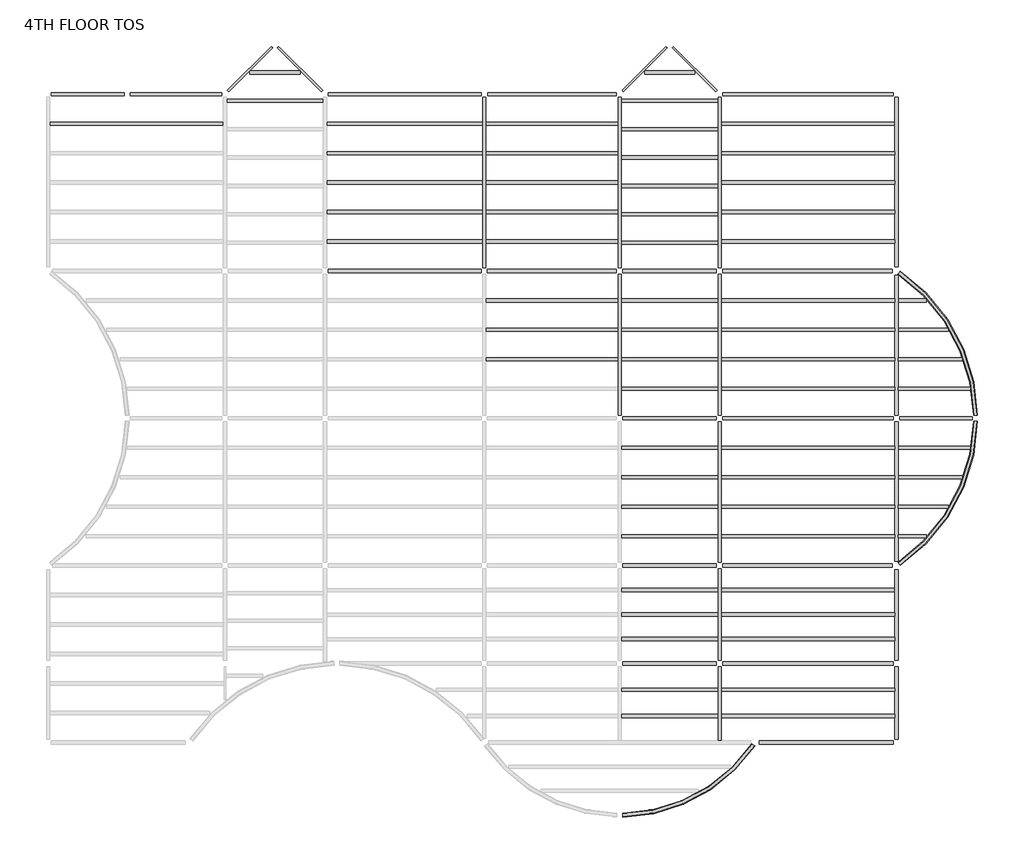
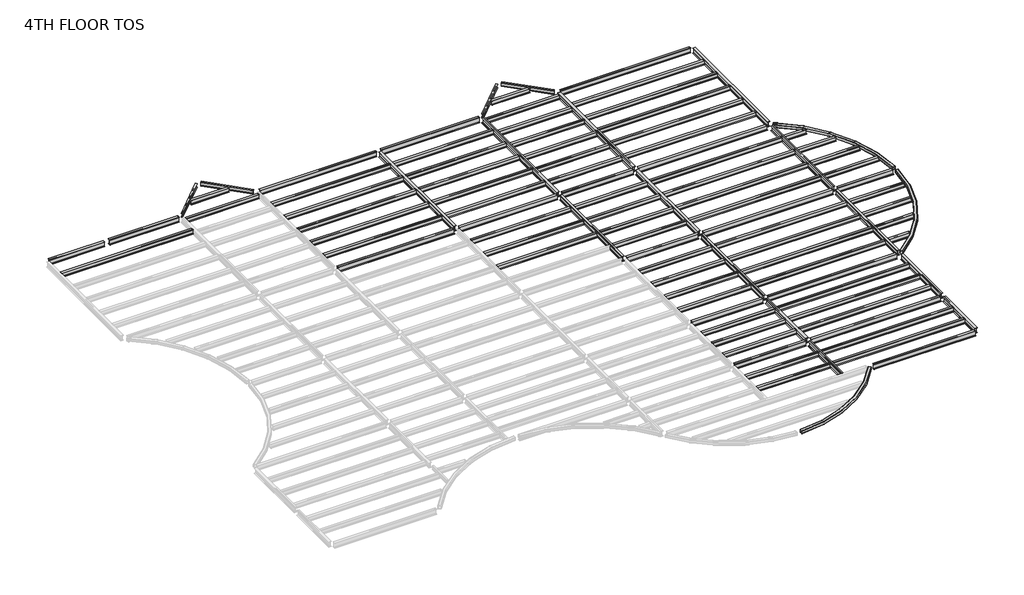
# One storey, part 2 of 2: 99 beams.
"""IFC4 building model written with IfcOpenShell, lengths in millimetres."""

from ifc_helpers import new_model, si_unit, origin, place, context, project, spatial, transform, mapped, element, save
from components import m_hss_square_hss203_2x203_2x9_5_28e91a4e, m_hss_square_hss203_2x203_2x9_5_f31329aa, m_hss_square_hss203_2x203_2x9_5_63507dff, ub_universal_beams_ub254x102x28_7812688d, ub_universal_beams_ub254x102x28_4a38c177, ub_universal_beams_ub305x165x40_c4d0385b, ub_universal_beams_ub305x165x40_19965e16, ub_universal_beams_ub305x165x40_d3abc31d, ub_universal_beams_ub305x165x40_0c73730f, ub_universal_beams_ub305x165x40_2a963f0c, ub_universal_beams_ub305x165x40_9ce7f2ee, ub_universal_beams_ub305x165x40_d184adfd, ub_universal_beams_ub305x165x40_bc7dc938, ub_universal_beams_ub305x165x40_b4233d25, ub_universal_beams_ub356x171x51_c708c058, ub_universal_beams_ub356x171x51_ef72dcdd, ub_universal_beams_ub356x171x51_10b3c54f, ub_universal_beams_ub356x171x51_4c9fd821, ub_universal_beams_ub356x171x51_d1a87c3c, ub_universal_beams_ub356x171x51_fa75724b, ub_universal_beams_ub356x171x51_68db896e, ub_universal_beams_ub356x171x51_c634c4a6, ub_universal_beams_ub356x171x51_995f1560, ub_universal_beams_ub356x171x51_dfc36663, ub_universal_beams_ub356x171x51_11d6b780, ub_universal_beams_ub356x171x51_76b2d20b, ub_universal_beams_ub356x171x51_145ecd4b, ub_universal_beams_ub356x171x51_c7dff8d2, ub_universal_beams_ub356x171x51_8a345439, ub_universal_beams_ub356x171x51_6da510e9, ub_universal_beams_ub356x171x51_e97f8d2e, ub_universal_beams_ub356x171x51_a38b99de, ub_universal_beams_ub356x171x51_d8f4cdde, ub_universal_beams_ub356x171x51_475301e6, ub_universal_beams_ub356x171x51_c03c70fb, ub_universal_beams_ub356x171x51_741bae58

model = new_model("IFC4")

# Units and contexts
model_context = context("Model", 3, world=origin())
ifc_project = project(units=[si_unit("LENGTHUNIT", "METRE", prefix="MILLI")], contexts=[model_context])

# Site, building, storey
site = spatial("IfcSite", under=ifc_project)
building = spatial("IfcBuilding", under=site)
storey = spatial("IfcBuildingStorey", under=building, Name="4TH FLOOR TOS", Elevation=18135.6)

# Beams
placement = place(None, origin())
m_hss_square_hss203_2x203_2x9_5_shape = m_hss_square_hss203_2x203_2x9_5_28e91a4e(model_context)
element("IfcBeam", 1, ObjectType="M_HSS Square : HSS203.2X203.2X9.5", at=placement, inside=storey, context=model_context, shape_type="MappedRepresentation", body=[
    mapped(m_hss_square_hss203_2x203_2x9_5_shape, transform((44027.575, 24539.575, 18034.1), x_axis=(0.8332810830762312, -0.5528495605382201, 0.0), y_axis=(0.5528495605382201, 0.8332810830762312, 0.0), z_axis=(0.0, 0.0, 1.0))),
])
m_hss_square_hss203_2x203_2x9_5_2_shape = m_hss_square_hss203_2x203_2x9_5_f31329aa(model_context)
element("IfcBeam", 2, ObjectType="M_HSS Square : HSS203.2X203.2X9.5", at=placement, inside=storey, context=model_context, shape_type="MappedRepresentation", body=[
    mapped(m_hss_square_hss203_2x203_2x9_5_2_shape, transform((44027.575, 9299.575, 18034.1), x_axis=(0.8332810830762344, 0.5528495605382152, 0.0), y_axis=(-0.5528495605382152, 0.8332810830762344, 0.0), z_axis=(0.0, 0.0, 1.0))),
])
m_hss_square_hss203_2x203_2x9_5_3_shape = m_hss_square_hss203_2x203_2x9_5_63507dff(model_context)
element("IfcBeam", 3, ObjectType="M_HSS Square : HSS203.2X203.2X9.5", at=placement, inside=storey, context=model_context, shape_type="MappedRepresentation", body=[
    mapped(m_hss_square_hss203_2x203_2x9_5_3_shape, transform((36716.575, 155.575, 18034.1), x_axis=(-0.5530174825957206, -0.8331696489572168, 0.0), y_axis=(0.8331696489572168, -0.5530174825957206, 0.0), z_axis=(0.0, 0.0, 1.0))),
])
ub_universal_beams_ub254x102x28_shape = ub_universal_beams_ub254x102x28_7812688d(model_context)
element("IfcBeam", 4, ObjectType="UB-Universal Beams : UB254x102x28", at=placement, inside=storey, context=model_context, shape_type="MappedRepresentation", body=[
    mapped(ub_universal_beams_ub254x102x28_shape, transform((10592.575, 34976.575, 18005.4), x_axis=(0.7071067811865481, 0.7071067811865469, 0.0), y_axis=(-0.7071067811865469, 0.7071067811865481, 0.0), z_axis=(0.0, 0.0, 1.0))),
])
element("IfcBeam", 5, ObjectType="UB-Universal Beams : UB254x102x28", at=placement, inside=storey, context=model_context, shape_type="MappedRepresentation", body=[
    mapped(ub_universal_beams_ub254x102x28_shape, transform((31004.575, 34976.575, 18005.4), x_axis=(0.7071067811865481, 0.7071067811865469, 0.0), y_axis=(-0.7071067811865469, 0.7071067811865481, 0.0), z_axis=(0.0, 0.0, 1.0))),
])
ub_universal_beams_ub254x102x28_2_shape = ub_universal_beams_ub254x102x28_4a38c177(model_context)
element("IfcBeam", 6, ObjectType="UB-Universal Beams : UB254x102x28", at=placement, inside=storey, context=model_context, shape_type="MappedRepresentation", body=[
    mapped(ub_universal_beams_ub254x102x28_2_shape, transform((13178.575, 34976.575, 18005.4), x_axis=(0.707106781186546, -0.707106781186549, 0.0), y_axis=(0.707106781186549, 0.707106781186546, 0.0), z_axis=(0.0, 0.0, 1.0))),
])
element("IfcBeam", 7, ObjectType="UB-Universal Beams : UB254x102x28", at=placement, inside=storey, context=model_context, shape_type="MappedRepresentation", body=[
    mapped(ub_universal_beams_ub254x102x28_2_shape, transform((33590.575, 34976.575, 18005.4), x_axis=(0.7071067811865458, -0.7071067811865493, 0.0), y_axis=(0.7071067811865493, 0.7071067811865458, 0.0), z_axis=(0.0, 0.0, 1.0))),
])
ub_universal_beams_ub305x165x40_shape = ub_universal_beams_ub305x165x40_c4d0385b(model_context)
element("IfcBeam", 8, ObjectType="UB-Universal Beams : UB305x165x40", at=placement, inside=storey, context=model_context, shape_type="MappedRepresentation", body=[
    mapped(ub_universal_beams_ub305x165x40_shape, transform((4727.575, 32159.575, 17983.9), x_axis=(1.0, 0.0, 0.0), y_axis=(0.0, 1.0, 0.0), z_axis=(0.0, 0.0, 1.0))),
])
element("IfcBeam", 9, ObjectType="UB-Universal Beams : UB305x165x40", at=placement, inside=storey, context=model_context, shape_type="MappedRepresentation", body=[
    mapped(ub_universal_beams_ub305x165x40_shape, transform((39455.575, 32159.575, 17983.9), x_axis=(1.0, 0.0, 0.0), y_axis=(0.0, 1.0, 0.0), z_axis=(0.0, 0.0, 1.0))),
])
element("IfcBeam", 10, ObjectType="UB-Universal Beams : UB305x165x40", at=placement, inside=storey, context=model_context, shape_type="MappedRepresentation", body=[
    mapped(ub_universal_beams_ub305x165x40_shape, transform((39455.575, 30635.575, 17983.9), x_axis=(1.0, 0.0, 0.0), y_axis=(0.0, 1.0, 0.0), z_axis=(0.0, 0.0, 1.0))),
])
element("IfcBeam", 11, ObjectType="UB-Universal Beams : UB305x165x40", at=placement, inside=storey, context=model_context, shape_type="MappedRepresentation", body=[
    mapped(ub_universal_beams_ub305x165x40_shape, transform((39455.575, 29111.575, 17983.9), x_axis=(1.0, 0.0, 0.0), y_axis=(0.0, 1.0, 0.0), z_axis=(0.0, 0.0, 1.0))),
])
element("IfcBeam", 12, ObjectType="UB-Universal Beams : UB305x165x40", at=placement, inside=storey, context=model_context, shape_type="MappedRepresentation", body=[
    mapped(ub_universal_beams_ub305x165x40_shape, transform((39455.575, 27587.575, 17983.9), x_axis=(1.0, 0.0, 0.0), y_axis=(0.0, 1.0, 0.0), z_axis=(0.0, 0.0, 1.0))),
])
element("IfcBeam", 13, ObjectType="UB-Universal Beams : UB305x165x40", at=placement, inside=storey, context=model_context, shape_type="MappedRepresentation", body=[
    mapped(ub_universal_beams_ub305x165x40_shape, transform((39455.575, 26063.575, 17983.9), x_axis=(1.0, 0.0, 0.0), y_axis=(0.0, 1.0, 0.0), z_axis=(0.0, 0.0, 1.0))),
])
element("IfcBeam", 14, ObjectType="UB-Universal Beams : UB305x165x40", at=placement, inside=storey, context=model_context, shape_type="MappedRepresentation", body=[
    mapped(ub_universal_beams_ub305x165x40_shape, transform((39455.575, 23015.575, 17983.9), x_axis=(1.0, 0.0, 0.0), y_axis=(0.0, 1.0, 0.0), z_axis=(0.0, 0.0, 1.0))),
])
element("IfcBeam", 15, ObjectType="UB-Universal Beams : UB305x165x40", at=placement, inside=storey, context=model_context, shape_type="MappedRepresentation", body=[
    mapped(ub_universal_beams_ub305x165x40_shape, transform((39455.575, 21491.575, 17983.9), x_axis=(1.0, 0.0, 0.0), y_axis=(0.0, 1.0, 0.0), z_axis=(0.0, 0.0, 1.0))),
])
element("IfcBeam", 16, ObjectType="UB-Universal Beams : UB305x165x40", at=placement, inside=storey, context=model_context, shape_type="MappedRepresentation", body=[
    mapped(ub_universal_beams_ub305x165x40_shape, transform((39455.575, 19967.575, 17983.9), x_axis=(1.0, 0.0, 0.0), y_axis=(0.0, 1.0, 0.0), z_axis=(0.0, 0.0, 1.0))),
])
element("IfcBeam", 17, ObjectType="UB-Universal Beams : UB305x165x40", at=placement, inside=storey, context=model_context, shape_type="MappedRepresentation", body=[
    mapped(ub_universal_beams_ub305x165x40_shape, transform((39455.575, 18443.575, 17983.9), x_axis=(1.0, 0.0, 0.0), y_axis=(0.0, 1.0, 0.0), z_axis=(0.0, 0.0, 1.0))),
])
element("IfcBeam", 18, ObjectType="UB-Universal Beams : UB305x165x40", at=placement, inside=storey, context=model_context, shape_type="MappedRepresentation", body=[
    mapped(ub_universal_beams_ub305x165x40_shape, transform((39455.575, 15395.575, 17983.9), x_axis=(1.0, 0.0, 0.0), y_axis=(0.0, 1.0, 0.0), z_axis=(0.0, 0.0, 1.0))),
])
element("IfcBeam", 19, ObjectType="UB-Universal Beams : UB305x165x40", at=placement, inside=storey, context=model_context, shape_type="MappedRepresentation", body=[
    mapped(ub_universal_beams_ub305x165x40_shape, transform((39455.575, 13871.575, 17983.9), x_axis=(1.0, 0.0, 0.0), y_axis=(0.0, 1.0, 0.0), z_axis=(0.0, 0.0, 1.0))),
])
element("IfcBeam", 20, ObjectType="UB-Universal Beams : UB305x165x40", at=placement, inside=storey, context=model_context, shape_type="MappedRepresentation", body=[
    mapped(ub_universal_beams_ub305x165x40_shape, transform((39455.575, 12347.575, 17983.9), x_axis=(1.0, 0.0, 0.0), y_axis=(0.0, 1.0, 0.0), z_axis=(0.0, 0.0, 1.0))),
])
element("IfcBeam", 21, ObjectType="UB-Universal Beams : UB305x165x40", at=placement, inside=storey, context=model_context, shape_type="MappedRepresentation", body=[
    mapped(ub_universal_beams_ub305x165x40_shape, transform((39455.575, 10823.575, 17983.9), x_axis=(1.0, 0.0, 0.0), y_axis=(0.0, 1.0, 0.0), z_axis=(0.0, 0.0, 1.0))),
])
element("IfcBeam", 22, ObjectType="UB-Universal Beams : UB305x165x40", at=placement, inside=storey, context=model_context, shape_type="MappedRepresentation", body=[
    mapped(ub_universal_beams_ub305x165x40_shape, transform((39455.575, 5508.325, 17983.9), x_axis=(-1.0, 0.0, 0.0), y_axis=(0.0, -1.0, 0.0), z_axis=(0.0, 0.0, 1.0))),
])
element("IfcBeam", 23, ObjectType="UB-Universal Beams : UB305x165x40", at=placement, inside=storey, context=model_context, shape_type="MappedRepresentation", body=[
    mapped(ub_universal_beams_ub305x165x40_shape, transform((39455.575, 6772.075, 17983.9), x_axis=(-1.0, 0.0, 0.0), y_axis=(0.0, -1.0, 0.0), z_axis=(0.0, 0.0, 1.0))),
])
element("IfcBeam", 24, ObjectType="UB-Universal Beams : UB305x165x40", at=placement, inside=storey, context=model_context, shape_type="MappedRepresentation", body=[
    mapped(ub_universal_beams_ub305x165x40_shape, transform((39455.575, 8035.825, 17983.9), x_axis=(-1.0, 0.0, 0.0), y_axis=(0.0, -1.0, 0.0), z_axis=(0.0, 0.0, 1.0))),
])
element("IfcBeam", 25, ObjectType="UB-Universal Beams : UB305x165x40", at=placement, inside=storey, context=model_context, shape_type="MappedRepresentation", body=[
    mapped(ub_universal_beams_ub305x165x40_shape, transform((39455.575, 1518.575, 17983.9), x_axis=(-1.0, 0.0, 0.0), y_axis=(0.0, -1.0, 0.0), z_axis=(0.0, 0.0, 1.0))),
])
element("IfcBeam", 26, ObjectType="UB-Universal Beams : UB305x165x40", at=placement, inside=storey, context=model_context, shape_type="MappedRepresentation", body=[
    mapped(ub_universal_beams_ub305x165x40_shape, transform((39455.575, 2881.575, 17983.9), x_axis=(-1.0, 0.0, 0.0), y_axis=(0.0, -1.0, 0.0), z_axis=(0.0, 0.0, 1.0))),
])
ub_universal_beams_ub305x165x40_2_shape = ub_universal_beams_ub305x165x40_19965e16(model_context)
element("IfcBeam", 27, ObjectType="UB-Universal Beams : UB305x165x40", at=placement, inside=storey, context=model_context, shape_type="MappedRepresentation", body=[
    mapped(ub_universal_beams_ub305x165x40_2_shape, transform((11885.575, 34803.325, 17983.9), x_axis=(1.0, 0.0, 0.0), y_axis=(0.0, 1.0, 0.0), z_axis=(0.0, 0.0, 1.0))),
])
element("IfcBeam", 28, ObjectType="UB-Universal Beams : UB305x165x40", at=placement, inside=storey, context=model_context, shape_type="MappedRepresentation", body=[
    mapped(ub_universal_beams_ub305x165x40_2_shape, transform((32297.575, 34803.325, 17983.9), x_axis=(1.0, 0.0, 0.0), y_axis=(0.0, 1.0, 0.0), z_axis=(0.0, 0.0, 1.0))),
])
ub_universal_beams_ub305x165x40_3_shape = ub_universal_beams_ub305x165x40_d3abc31d(model_context)
element("IfcBeam", 29, ObjectType="UB-Universal Beams : UB305x165x40", at=placement, inside=storey, context=model_context, shape_type="MappedRepresentation", body=[
    mapped(ub_universal_beams_ub305x165x40_3_shape, transform((11885.575, 33337.075, 17983.9), x_axis=(1.0, 0.0, 0.0), y_axis=(0.0, 1.0, 0.0), z_axis=(0.0, 0.0, 1.0))),
])
element("IfcBeam", 30, ObjectType="UB-Universal Beams : UB305x165x40", at=placement, inside=storey, context=model_context, shape_type="MappedRepresentation", body=[
    mapped(ub_universal_beams_ub305x165x40_3_shape, transform((32297.575, 33337.075, 17983.9), x_axis=(1.0, 0.0, 0.0), y_axis=(0.0, 1.0, 0.0), z_axis=(0.0, 0.0, 1.0))),
])
element("IfcBeam", 31, ObjectType="UB-Universal Beams : UB305x165x40", at=placement, inside=storey, context=model_context, shape_type="MappedRepresentation", body=[
    mapped(ub_universal_beams_ub305x165x40_3_shape, transform((32297.575, 31870.825, 17983.9), x_axis=(1.0, 0.0, 0.0), y_axis=(0.0, 1.0, 0.0), z_axis=(0.0, 0.0, 1.0))),
])
element("IfcBeam", 32, ObjectType="UB-Universal Beams : UB305x165x40", at=placement, inside=storey, context=model_context, shape_type="MappedRepresentation", body=[
    mapped(ub_universal_beams_ub305x165x40_3_shape, transform((32297.575, 30404.575, 17983.9), x_axis=(1.0, 0.0, 0.0), y_axis=(0.0, 1.0, 0.0), z_axis=(0.0, 0.0, 1.0))),
])
element("IfcBeam", 33, ObjectType="UB-Universal Beams : UB305x165x40", at=placement, inside=storey, context=model_context, shape_type="MappedRepresentation", body=[
    mapped(ub_universal_beams_ub305x165x40_3_shape, transform((32297.575, 28938.325, 17983.9), x_axis=(1.0, 0.0, 0.0), y_axis=(0.0, 1.0, 0.0), z_axis=(0.0, 0.0, 1.0))),
])
element("IfcBeam", 34, ObjectType="UB-Universal Beams : UB305x165x40", at=placement, inside=storey, context=model_context, shape_type="MappedRepresentation", body=[
    mapped(ub_universal_beams_ub305x165x40_3_shape, transform((32297.575, 27472.075, 17983.9), x_axis=(1.0, 0.0, 0.0), y_axis=(0.0, 1.0, 0.0), z_axis=(0.0, 0.0, 1.0))),
])
element("IfcBeam", 35, ObjectType="UB-Universal Beams : UB305x165x40", at=placement, inside=storey, context=model_context, shape_type="MappedRepresentation", body=[
    mapped(ub_universal_beams_ub305x165x40_3_shape, transform((32297.575, 26005.825, 17983.9), x_axis=(1.0, 0.0, 0.0), y_axis=(0.0, 1.0, 0.0), z_axis=(0.0, 0.0, 1.0))),
])
element("IfcBeam", 36, ObjectType="UB-Universal Beams : UB305x165x40", at=placement, inside=storey, context=model_context, shape_type="MappedRepresentation", body=[
    mapped(ub_universal_beams_ub305x165x40_3_shape, transform((32297.575, 1518.575, 17983.9), x_axis=(-1.0, 0.0, 0.0), y_axis=(0.0, -1.0, 0.0), z_axis=(0.0, 0.0, 1.0))),
])
element("IfcBeam", 37, ObjectType="UB-Universal Beams : UB305x165x40", at=placement, inside=storey, context=model_context, shape_type="MappedRepresentation", body=[
    mapped(ub_universal_beams_ub305x165x40_3_shape, transform((32297.575, 2881.575, 17983.9), x_axis=(-1.0, 0.0, 0.0), y_axis=(0.0, -1.0, 0.0), z_axis=(0.0, 0.0, 1.0))),
])
element("IfcBeam", 38, ObjectType="UB-Universal Beams : UB305x165x40", at=placement, inside=storey, context=model_context, shape_type="MappedRepresentation", body=[
    mapped(ub_universal_beams_ub305x165x40_3_shape, transform((32297.575, 5508.325, 17983.9), x_axis=(-1.0, 0.0, 0.0), y_axis=(0.0, -1.0, 0.0), z_axis=(0.0, 0.0, 1.0))),
])
element("IfcBeam", 39, ObjectType="UB-Universal Beams : UB305x165x40", at=placement, inside=storey, context=model_context, shape_type="MappedRepresentation", body=[
    mapped(ub_universal_beams_ub305x165x40_3_shape, transform((32297.575, 6772.075, 17983.9), x_axis=(-1.0, 0.0, 0.0), y_axis=(0.0, -1.0, 0.0), z_axis=(0.0, 0.0, 1.0))),
])
element("IfcBeam", 40, ObjectType="UB-Universal Beams : UB305x165x40", at=placement, inside=storey, context=model_context, shape_type="MappedRepresentation", body=[
    mapped(ub_universal_beams_ub305x165x40_3_shape, transform((32297.575, 8035.825, 17983.9), x_axis=(-1.0, 0.0, 0.0), y_axis=(0.0, -1.0, 0.0), z_axis=(0.0, 0.0, 1.0))),
])
element("IfcBeam", 41, ObjectType="UB-Universal Beams : UB305x165x40", at=placement, inside=storey, context=model_context, shape_type="MappedRepresentation", body=[
    mapped(ub_universal_beams_ub305x165x40_3_shape, transform((32297.575, 15395.575, 17983.9), x_axis=(1.0, 0.0, 0.0), y_axis=(0.0, 1.0, 0.0), z_axis=(0.0, 0.0, 1.0))),
])
element("IfcBeam", 42, ObjectType="UB-Universal Beams : UB305x165x40", at=placement, inside=storey, context=model_context, shape_type="MappedRepresentation", body=[
    mapped(ub_universal_beams_ub305x165x40_3_shape, transform((32297.575, 13871.575, 17983.9), x_axis=(1.0, 0.0, 0.0), y_axis=(0.0, 1.0, 0.0), z_axis=(0.0, 0.0, 1.0))),
])
element("IfcBeam", 43, ObjectType="UB-Universal Beams : UB305x165x40", at=placement, inside=storey, context=model_context, shape_type="MappedRepresentation", body=[
    mapped(ub_universal_beams_ub305x165x40_3_shape, transform((32297.575, 12347.575, 17983.9), x_axis=(1.0, 0.0, 0.0), y_axis=(0.0, 1.0, 0.0), z_axis=(0.0, 0.0, 1.0))),
])
element("IfcBeam", 44, ObjectType="UB-Universal Beams : UB305x165x40", at=placement, inside=storey, context=model_context, shape_type="MappedRepresentation", body=[
    mapped(ub_universal_beams_ub305x165x40_3_shape, transform((32297.575, 10823.575, 17983.9), x_axis=(1.0, 0.0, 0.0), y_axis=(0.0, 1.0, 0.0), z_axis=(0.0, 0.0, 1.0))),
])
element("IfcBeam", 45, ObjectType="UB-Universal Beams : UB305x165x40", at=placement, inside=storey, context=model_context, shape_type="MappedRepresentation", body=[
    mapped(ub_universal_beams_ub305x165x40_3_shape, transform((32297.575, 23015.575, 17983.9), x_axis=(1.0, 0.0, 0.0), y_axis=(0.0, 1.0, 0.0), z_axis=(0.0, 0.0, 1.0))),
])
element("IfcBeam", 46, ObjectType="UB-Universal Beams : UB305x165x40", at=placement, inside=storey, context=model_context, shape_type="MappedRepresentation", body=[
    mapped(ub_universal_beams_ub305x165x40_3_shape, transform((32297.575, 21491.575, 17983.9), x_axis=(1.0, 0.0, 0.0), y_axis=(0.0, 1.0, 0.0), z_axis=(0.0, 0.0, 1.0))),
])
element("IfcBeam", 47, ObjectType="UB-Universal Beams : UB305x165x40", at=placement, inside=storey, context=model_context, shape_type="MappedRepresentation", body=[
    mapped(ub_universal_beams_ub305x165x40_3_shape, transform((32297.575, 19967.575, 17983.9), x_axis=(1.0, 0.0, 0.0), y_axis=(0.0, 1.0, 0.0), z_axis=(0.0, 0.0, 1.0))),
])
element("IfcBeam", 48, ObjectType="UB-Universal Beams : UB305x165x40", at=placement, inside=storey, context=model_context, shape_type="MappedRepresentation", body=[
    mapped(ub_universal_beams_ub305x165x40_3_shape, transform((32297.575, 18443.575, 17983.9), x_axis=(1.0, 0.0, 0.0), y_axis=(0.0, 1.0, 0.0), z_axis=(0.0, 0.0, 1.0))),
])
ub_universal_beams_ub305x165x40_4_shape = ub_universal_beams_ub305x165x40_0c73730f(model_context)
element("IfcBeam", 49, ObjectType="UB-Universal Beams : UB305x165x40", at=placement, inside=storey, context=model_context, shape_type="MappedRepresentation", body=[
    mapped(ub_universal_beams_ub305x165x40_4_shape, transform((18591.075, 32159.575, 17983.9), x_axis=(1.0, 0.0, 0.0), y_axis=(0.0, 1.0, 0.0), z_axis=(0.0, 0.0, 1.0))),
])
element("IfcBeam", 50, ObjectType="UB-Universal Beams : UB305x165x40", at=placement, inside=storey, context=model_context, shape_type="MappedRepresentation", body=[
    mapped(ub_universal_beams_ub305x165x40_4_shape, transform((18591.075, 30635.575, 17983.9), x_axis=(1.0, 0.0, 0.0), y_axis=(0.0, 1.0, 0.0), z_axis=(0.0, 0.0, 1.0))),
])
element("IfcBeam", 51, ObjectType="UB-Universal Beams : UB305x165x40", at=placement, inside=storey, context=model_context, shape_type="MappedRepresentation", body=[
    mapped(ub_universal_beams_ub305x165x40_4_shape, transform((18591.075, 29111.575, 17983.9), x_axis=(1.0, 0.0, 0.0), y_axis=(0.0, 1.0, 0.0), z_axis=(0.0, 0.0, 1.0))),
])
element("IfcBeam", 52, ObjectType="UB-Universal Beams : UB305x165x40", at=placement, inside=storey, context=model_context, shape_type="MappedRepresentation", body=[
    mapped(ub_universal_beams_ub305x165x40_4_shape, transform((18591.075, 27587.575, 17983.9), x_axis=(1.0, 0.0, 0.0), y_axis=(0.0, 1.0, 0.0), z_axis=(0.0, 0.0, 1.0))),
])
element("IfcBeam", 53, ObjectType="UB-Universal Beams : UB305x165x40", at=placement, inside=storey, context=model_context, shape_type="MappedRepresentation", body=[
    mapped(ub_universal_beams_ub305x165x40_4_shape, transform((18591.075, 26063.575, 17983.9), x_axis=(1.0, 0.0, 0.0), y_axis=(0.0, 1.0, 0.0), z_axis=(0.0, 0.0, 1.0))),
])
ub_universal_beams_ub305x165x40_5_shape = ub_universal_beams_ub305x165x40_2a963f0c(model_context)
element("IfcBeam", 54, ObjectType="UB-Universal Beams : UB305x165x40", at=placement, inside=storey, context=model_context, shape_type="MappedRepresentation", body=[
    mapped(ub_universal_beams_ub305x165x40_5_shape, transform((26211.075, 32159.575, 17983.9), x_axis=(1.0, 0.0, 0.0), y_axis=(0.0, 1.0, 0.0), z_axis=(0.0, 0.0, 1.0))),
])
element("IfcBeam", 55, ObjectType="UB-Universal Beams : UB305x165x40", at=placement, inside=storey, context=model_context, shape_type="MappedRepresentation", body=[
    mapped(ub_universal_beams_ub305x165x40_5_shape, transform((26211.075, 30635.575, 17983.9), x_axis=(1.0, 0.0, 0.0), y_axis=(0.0, 1.0, 0.0), z_axis=(0.0, 0.0, 1.0))),
])
element("IfcBeam", 56, ObjectType="UB-Universal Beams : UB305x165x40", at=placement, inside=storey, context=model_context, shape_type="MappedRepresentation", body=[
    mapped(ub_universal_beams_ub305x165x40_5_shape, transform((26211.075, 29111.575, 17983.9), x_axis=(1.0, 0.0, 0.0), y_axis=(0.0, 1.0, 0.0), z_axis=(0.0, 0.0, 1.0))),
])
element("IfcBeam", 57, ObjectType="UB-Universal Beams : UB305x165x40", at=placement, inside=storey, context=model_context, shape_type="MappedRepresentation", body=[
    mapped(ub_universal_beams_ub305x165x40_5_shape, transform((26211.075, 27587.575, 17983.9), x_axis=(1.0, 0.0, 0.0), y_axis=(0.0, 1.0, 0.0), z_axis=(0.0, 0.0, 1.0))),
])
element("IfcBeam", 58, ObjectType="UB-Universal Beams : UB305x165x40", at=placement, inside=storey, context=model_context, shape_type="MappedRepresentation", body=[
    mapped(ub_universal_beams_ub305x165x40_5_shape, transform((26211.075, 26063.575, 17983.9), x_axis=(1.0, 0.0, 0.0), y_axis=(0.0, 1.0, 0.0), z_axis=(0.0, 0.0, 1.0))),
])
element("IfcBeam", 59, ObjectType="UB-Universal Beams : UB305x165x40", at=placement, inside=storey, context=model_context, shape_type="MappedRepresentation", body=[
    mapped(ub_universal_beams_ub305x165x40_5_shape, transform((26211.075, 23015.575, 17983.9), x_axis=(1.0, 0.0, 0.0), y_axis=(0.0, 1.0, 0.0), z_axis=(0.0, 0.0, 1.0))),
])
element("IfcBeam", 60, ObjectType="UB-Universal Beams : UB305x165x40", at=placement, inside=storey, context=model_context, shape_type="MappedRepresentation", body=[
    mapped(ub_universal_beams_ub305x165x40_5_shape, transform((26211.075, 21491.575, 17983.9), x_axis=(1.0, 0.0, 0.0), y_axis=(0.0, 1.0, 0.0), z_axis=(0.0, 0.0, 1.0))),
])
element("IfcBeam", 61, ObjectType="UB-Universal Beams : UB305x165x40", at=placement, inside=storey, context=model_context, shape_type="MappedRepresentation", body=[
    mapped(ub_universal_beams_ub305x165x40_5_shape, transform((26211.075, 19967.575, 17983.9), x_axis=(1.0, 0.0, 0.0), y_axis=(0.0, 1.0, 0.0), z_axis=(0.0, 0.0, 1.0))),
])
ub_universal_beams_ub305x165x40_6_shape = ub_universal_beams_ub305x165x40_9ce7f2ee(model_context)
element("IfcBeam", 62, ObjectType="UB-Universal Beams : UB305x165x40", at=placement, inside=storey, context=model_context, shape_type="MappedRepresentation", body=[
    mapped(ub_universal_beams_ub305x165x40_6_shape, transform((44907.9405309, 23015.575, 17983.9), x_axis=(1.0, 0.0, 0.0), y_axis=(0.0, 1.0, 0.0), z_axis=(0.0, 0.0, 1.0))),
])
element("IfcBeam", 63, ObjectType="UB-Universal Beams : UB305x165x40", at=placement, inside=storey, context=model_context, shape_type="MappedRepresentation", body=[
    mapped(ub_universal_beams_ub305x165x40_6_shape, transform((44907.9405309, 10823.575, 17983.9), x_axis=(1.0, 0.0, 0.0), y_axis=(0.0, 1.0, 0.0), z_axis=(0.0, 0.0, 1.0))),
])
ub_universal_beams_ub305x165x40_7_shape = ub_universal_beams_ub305x165x40_d184adfd(model_context)
element("IfcBeam", 64, ObjectType="UB-Universal Beams : UB305x165x40", at=placement, inside=storey, context=model_context, shape_type="MappedRepresentation", body=[
    mapped(ub_universal_beams_ub305x165x40_7_shape, transform((45459.5874928, 21491.575, 17983.9), x_axis=(1.0, 0.0, 0.0), y_axis=(0.0, 1.0, 0.0), z_axis=(0.0, 0.0, 1.0))),
])
element("IfcBeam", 65, ObjectType="UB-Universal Beams : UB305x165x40", at=placement, inside=storey, context=model_context, shape_type="MappedRepresentation", body=[
    mapped(ub_universal_beams_ub305x165x40_7_shape, transform((45459.5874928, 12347.575, 17983.9), x_axis=(1.0, 0.0, 0.0), y_axis=(0.0, 1.0, 0.0), z_axis=(0.0, 0.0, 1.0))),
])
ub_universal_beams_ub305x165x40_8_shape = ub_universal_beams_ub305x165x40_bc7dc938(model_context)
element("IfcBeam", 66, ObjectType="UB-Universal Beams : UB305x165x40", at=placement, inside=storey, context=model_context, shape_type="MappedRepresentation", body=[
    mapped(ub_universal_beams_ub305x165x40_8_shape, transform((45810.6153272, 19967.575, 17983.9), x_axis=(1.0, 0.0, 0.0), y_axis=(0.0, 1.0, 0.0), z_axis=(0.0, 0.0, 1.0))),
])
element("IfcBeam", 67, ObjectType="UB-Universal Beams : UB305x165x40", at=placement, inside=storey, context=model_context, shape_type="MappedRepresentation", body=[
    mapped(ub_universal_beams_ub305x165x40_8_shape, transform((45810.6153272, 13871.575, 17983.9), x_axis=(1.0, 0.0, 0.0), y_axis=(0.0, 1.0, 0.0), z_axis=(0.0, 0.0, 1.0))),
])
ub_universal_beams_ub305x165x40_9_shape = ub_universal_beams_ub305x165x40_b4233d25(model_context)
element("IfcBeam", 68, ObjectType="UB-Universal Beams : UB305x165x40", at=placement, inside=storey, context=model_context, shape_type="MappedRepresentation", body=[
    mapped(ub_universal_beams_ub305x165x40_9_shape, transform((46008.1318611, 18443.575, 17983.9), x_axis=(1.0, 0.0, 0.0), y_axis=(0.0, 1.0, 0.0), z_axis=(0.0, 0.0, 1.0))),
])
element("IfcBeam", 69, ObjectType="UB-Universal Beams : UB305x165x40", at=placement, inside=storey, context=model_context, shape_type="MappedRepresentation", body=[
    mapped(ub_universal_beams_ub305x165x40_9_shape, transform((46008.1318611, 15395.575, 17983.9), x_axis=(1.0, 0.0, 0.0), y_axis=(0.0, 1.0, 0.0), z_axis=(0.0, 0.0, 1.0))),
])
ub_universal_beams_ub356x171x51_shape = ub_universal_beams_ub356x171x51_c708c058(model_context)
element("IfcBeam", 70, ObjectType="UB-Universal Beams : UB356x171x51", at=placement, inside=storey, context=model_context, shape_type="MappedRepresentation", body=[
    mapped(ub_universal_beams_ub356x171x51_shape, transform((2200.075, 33683.575, 17958.1), x_axis=(1.0, 0.0, 0.0), y_axis=(0.0, 1.0, 0.0), z_axis=(0.0, 0.0, 1.0))),
])
ub_universal_beams_ub356x171x51_2_shape = ub_universal_beams_ub356x171x51_ef72dcdd(model_context)
element("IfcBeam", 71, ObjectType="UB-Universal Beams : UB356x171x51", at=placement, inside=storey, context=model_context, shape_type="MappedRepresentation", body=[
    mapped(ub_universal_beams_ub356x171x51_2_shape, transform((6772.075, 33683.575, 17958.1), x_axis=(1.0, 0.0, 0.0), y_axis=(0.0, 1.0, 0.0), z_axis=(0.0, 0.0, 1.0))),
])
element("IfcBeam", 72, ObjectType="UB-Universal Beams : UB356x171x51", at=placement, inside=storey, context=model_context, shape_type="MappedRepresentation", body=[
    mapped(ub_universal_beams_ub356x171x51_2_shape, transform((34883.575, 6772.075, 17958.1), x_axis=(0.0, -1.0, 0.0), y_axis=(1.0, 0.0, 0.0), z_axis=(0.0, 0.0, 1.0))),
])
ub_universal_beams_ub356x171x51_3_shape = ub_universal_beams_ub356x171x51_10b3c54f(model_context)
element("IfcBeam", 73, ObjectType="UB-Universal Beams : UB356x171x51", at=placement, inside=storey, context=model_context, shape_type="MappedRepresentation", body=[
    mapped(ub_universal_beams_ub356x171x51_3_shape, transform((18591.075, 33683.575, 17958.1), x_axis=(1.0, 0.0, 0.0), y_axis=(0.0, 1.0, 0.0), z_axis=(0.0, 0.0, 1.0))),
])
ub_universal_beams_ub356x171x51_4_shape = ub_universal_beams_ub356x171x51_4c9fd821(model_context)
element("IfcBeam", 74, ObjectType="UB-Universal Beams : UB356x171x51", at=placement, inside=storey, context=model_context, shape_type="MappedRepresentation", body=[
    mapped(ub_universal_beams_ub356x171x51_4_shape, transform((26211.075, 33683.575, 17958.1), x_axis=(1.0, 0.0, 0.0), y_axis=(0.0, 1.0, 0.0), z_axis=(0.0, 0.0, 1.0))),
])
ub_universal_beams_ub356x171x51_5_shape = ub_universal_beams_ub356x171x51_d1a87c3c(model_context)
element("IfcBeam", 75, ObjectType="UB-Universal Beams : UB356x171x51", at=placement, inside=storey, context=model_context, shape_type="MappedRepresentation", body=[
    mapped(ub_universal_beams_ub356x171x51_5_shape, transform((39455.575, 33683.575, 17958.1), x_axis=(1.0, 0.0, 0.0), y_axis=(0.0, 1.0, 0.0), z_axis=(0.0, 0.0, 1.0))),
])
ub_universal_beams_ub356x171x51_6_shape = ub_universal_beams_ub356x171x51_fa75724b(model_context)
element("IfcBeam", 76, ObjectType="UB-Universal Beams : UB356x171x51", at=placement, inside=storey, context=model_context, shape_type="MappedRepresentation", body=[
    mapped(ub_universal_beams_ub356x171x51_6_shape, transform((44027.575, 29111.575, 17958.1), x_axis=(0.0, -1.0, 0.0), y_axis=(1.0, 0.0, 0.0), z_axis=(0.0, 0.0, 1.0))),
])
ub_universal_beams_ub356x171x51_7_shape = ub_universal_beams_ub356x171x51_68db896e(model_context)
element("IfcBeam", 77, ObjectType="UB-Universal Beams : UB356x171x51", at=placement, inside=storey, context=model_context, shape_type="MappedRepresentation", body=[
    mapped(ub_universal_beams_ub356x171x51_7_shape, transform((44027.575, 6772.075, 17958.1), x_axis=(0.0, -1.0, 0.0), y_axis=(1.0, 0.0, 0.0), z_axis=(0.0, 0.0, 1.0))),
])
ub_universal_beams_ub356x171x51_8_shape = ub_universal_beams_ub356x171x51_c634c4a6(model_context)
element("IfcBeam", 78, ObjectType="UB-Universal Beams : UB356x171x51", at=placement, inside=storey, context=model_context, shape_type="MappedRepresentation", body=[
    mapped(ub_universal_beams_ub356x171x51_8_shape, transform((44027.575, 2200.075, 17958.1), x_axis=(0.0, -1.0, 0.0), y_axis=(1.0, 0.0, 0.0), z_axis=(0.0, 0.0, 1.0))),
])
ub_universal_beams_ub356x171x51_9_shape = ub_universal_beams_ub356x171x51_995f1560(model_context)
element("IfcBeam", 79, ObjectType="UB-Universal Beams : UB356x171x51", at=placement, inside=storey, context=model_context, shape_type="MappedRepresentation", body=[
    mapped(ub_universal_beams_ub356x171x51_9_shape, transform((40372.075, 155.575, 17958.1), x_axis=(-1.0, 0.0, 0.0), y_axis=(0.0, -1.0, 0.0), z_axis=(0.0, 0.0, 1.0))),
])
ub_universal_beams_ub356x171x51_10_shape = ub_universal_beams_ub356x171x51_dfc36663(model_context)
element("IfcBeam", 80, ObjectType="UB-Universal Beams : UB356x171x51", at=placement, inside=storey, context=model_context, shape_type="MappedRepresentation", body=[
    mapped(ub_universal_beams_ub356x171x51_10_shape, transform((46072.075, 16919.575, 17958.1), x_axis=(1.0, 0.0, 0.0), y_axis=(0.0, 1.0, 0.0), z_axis=(0.0, 0.0, 1.0))),
])
ub_universal_beams_ub356x171x51_11_shape = ub_universal_beams_ub356x171x51_11d6b780(model_context)
element("IfcBeam", 81, ObjectType="UB-Universal Beams : UB356x171x51", at=placement, inside=storey, context=model_context, shape_type="MappedRepresentation", body=[
    mapped(ub_universal_beams_ub356x171x51_11_shape, transform((32297.575, 24539.575, 17958.1), x_axis=(1.0, 0.0, 0.0), y_axis=(0.0, 1.0, 0.0), z_axis=(0.0, 0.0, 1.0))),
])
element("IfcBeam", 82, ObjectType="UB-Universal Beams : UB356x171x51", at=placement, inside=storey, context=model_context, shape_type="MappedRepresentation", body=[
    mapped(ub_universal_beams_ub356x171x51_11_shape, transform((32297.575, 9299.575, 17958.1), x_axis=(-1.0, 0.0, 0.0), y_axis=(0.0, -1.0, 0.0), z_axis=(0.0, 0.0, 1.0))),
])
element("IfcBeam", 83, ObjectType="UB-Universal Beams : UB356x171x51", at=placement, inside=storey, context=model_context, shape_type="MappedRepresentation", body=[
    mapped(ub_universal_beams_ub356x171x51_11_shape, transform((32297.575, 16919.575, 17958.1), x_axis=(1.0, 0.0, 0.0), y_axis=(0.0, 1.0, 0.0), z_axis=(0.0, 0.0, 1.0))),
])
element("IfcBeam", 84, ObjectType="UB-Universal Beams : UB356x171x51", at=placement, inside=storey, context=model_context, shape_type="MappedRepresentation", body=[
    mapped(ub_universal_beams_ub356x171x51_11_shape, transform((32297.575, 4244.575, 17958.1), x_axis=(-1.0, 0.0, 0.0), y_axis=(0.0, -1.0, 0.0), z_axis=(0.0, 0.0, 1.0))),
])
ub_universal_beams_ub356x171x51_12_shape = ub_universal_beams_ub356x171x51_76b2d20b(model_context)
element("IfcBeam", 85, ObjectType="UB-Universal Beams : UB356x171x51", at=placement, inside=storey, context=model_context, shape_type="MappedRepresentation", body=[
    mapped(ub_universal_beams_ub356x171x51_12_shape, transform((18591.075, 24539.575, 17958.1), x_axis=(1.0, 0.0, 0.0), y_axis=(0.0, 1.0, 0.0), z_axis=(0.0, 0.0, 1.0))),
])
ub_universal_beams_ub356x171x51_13_shape = ub_universal_beams_ub356x171x51_145ecd4b(model_context)
element("IfcBeam", 86, ObjectType="UB-Universal Beams : UB356x171x51", at=placement, inside=storey, context=model_context, shape_type="MappedRepresentation", body=[
    mapped(ub_universal_beams_ub356x171x51_13_shape, transform((26211.075, 24539.575, 17958.1), x_axis=(1.0, 0.0, 0.0), y_axis=(0.0, 1.0, 0.0), z_axis=(0.0, 0.0, 1.0))),
])
ub_universal_beams_ub356x171x51_14_shape = ub_universal_beams_ub356x171x51_c7dff8d2(model_context)
element("IfcBeam", 87, ObjectType="UB-Universal Beams : UB356x171x51", at=placement, inside=storey, context=model_context, shape_type="MappedRepresentation", body=[
    mapped(ub_universal_beams_ub356x171x51_14_shape, transform((39455.575, 24539.575, 17958.1), x_axis=(1.0, 0.0, 0.0), y_axis=(0.0, 1.0, 0.0), z_axis=(0.0, 0.0, 1.0))),
])
ub_universal_beams_ub356x171x51_15_shape = ub_universal_beams_ub356x171x51_8a345439(model_context)
element("IfcBeam", 88, ObjectType="UB-Universal Beams : UB356x171x51", at=placement, inside=storey, context=model_context, shape_type="MappedRepresentation", body=[
    mapped(ub_universal_beams_ub356x171x51_15_shape, transform((44027.575, 20729.575, 17958.1), x_axis=(0.0, -1.0, 0.0), y_axis=(1.0, 0.0, 0.0), z_axis=(0.0, 0.0, 1.0))),
])
ub_universal_beams_ub356x171x51_16_shape = ub_universal_beams_ub356x171x51_6da510e9(model_context)
element("IfcBeam", 89, ObjectType="UB-Universal Beams : UB356x171x51", at=placement, inside=storey, context=model_context, shape_type="MappedRepresentation", body=[
    mapped(ub_universal_beams_ub356x171x51_16_shape, transform((44027.575, 13109.575, 17958.1), x_axis=(0.0, -1.0, 0.0), y_axis=(1.0, 0.0, 0.0), z_axis=(0.0, 0.0, 1.0))),
])
ub_universal_beams_ub356x171x51_17_shape = ub_universal_beams_ub356x171x51_e97f8d2e(model_context)
element("IfcBeam", 90, ObjectType="UB-Universal Beams : UB356x171x51", at=placement, inside=storey, context=model_context, shape_type="MappedRepresentation", body=[
    mapped(ub_universal_beams_ub356x171x51_17_shape, transform((39455.575, 9299.575, 17958.1), x_axis=(-1.0, 0.0, 0.0), y_axis=(0.0, -1.0, 0.0), z_axis=(0.0, 0.0, 1.0))),
])
ub_universal_beams_ub356x171x51_18_shape = ub_universal_beams_ub356x171x51_a38b99de(model_context)
element("IfcBeam", 91, ObjectType="UB-Universal Beams : UB356x171x51", at=placement, inside=storey, context=model_context, shape_type="MappedRepresentation", body=[
    mapped(ub_universal_beams_ub356x171x51_18_shape, transform((34883.575, 20729.575, 17958.1), x_axis=(0.0, -1.0, 0.0), y_axis=(1.0, 0.0, 0.0), z_axis=(0.0, 0.0, 1.0))),
])
element("IfcBeam", 92, ObjectType="UB-Universal Beams : UB356x171x51", at=placement, inside=storey, context=model_context, shape_type="MappedRepresentation", body=[
    mapped(ub_universal_beams_ub356x171x51_18_shape, transform((34883.575, 13109.575, 17958.1), x_axis=(0.0, -1.0, 0.0), y_axis=(1.0, 0.0, 0.0), z_axis=(0.0, 0.0, 1.0))),
])
element("IfcBeam", 93, ObjectType="UB-Universal Beams : UB356x171x51", at=placement, inside=storey, context=model_context, shape_type="MappedRepresentation", body=[
    mapped(ub_universal_beams_ub356x171x51_18_shape, transform((29711.575, 20729.575, 17958.1), x_axis=(0.0, 1.0, 0.0), y_axis=(-1.0, 0.0, 0.0), z_axis=(0.0, 0.0, 1.0))),
])
ub_universal_beams_ub356x171x51_19_shape = ub_universal_beams_ub356x171x51_d8f4cdde(model_context)
element("IfcBeam", 94, ObjectType="UB-Universal Beams : UB356x171x51", at=placement, inside=storey, context=model_context, shape_type="MappedRepresentation", body=[
    mapped(ub_universal_beams_ub356x171x51_19_shape, transform((29711.575, 29111.575, 17958.1), x_axis=(0.0, 1.0, 0.0), y_axis=(-1.0, 0.0, 0.0), z_axis=(0.0, 0.0, 1.0))),
])
ub_universal_beams_ub356x171x51_20_shape = ub_universal_beams_ub356x171x51_475301e6(model_context)
element("IfcBeam", 95, ObjectType="UB-Universal Beams : UB356x171x51", at=placement, inside=storey, context=model_context, shape_type="MappedRepresentation", body=[
    mapped(ub_universal_beams_ub356x171x51_20_shape, transform((39455.575, 16919.575, 17958.1), x_axis=(1.0, 0.0, 0.0), y_axis=(0.0, 1.0, 0.0), z_axis=(0.0, 0.0, 1.0))),
])
element("IfcBeam", 96, ObjectType="UB-Universal Beams : UB356x171x51", at=placement, inside=storey, context=model_context, shape_type="MappedRepresentation", body=[
    mapped(ub_universal_beams_ub356x171x51_20_shape, transform((39455.575, 4244.575, 17958.1), x_axis=(-1.0, 0.0, 0.0), y_axis=(0.0, -1.0, 0.0), z_axis=(0.0, 0.0, 1.0))),
])
ub_universal_beams_ub356x171x51_21_shape = ub_universal_beams_ub356x171x51_c03c70fb(model_context)
element("IfcBeam", 97, ObjectType="UB-Universal Beams : UB356x171x51", at=placement, inside=storey, context=model_context, shape_type="MappedRepresentation", body=[
    mapped(ub_universal_beams_ub356x171x51_21_shape, transform((34883.575, 29111.575, 17958.1), x_axis=(0.0, -1.0, 0.0), y_axis=(1.0, 0.0, 0.0), z_axis=(0.0, 0.0, 1.0))),
])
element("IfcBeam", 98, ObjectType="UB-Universal Beams : UB356x171x51", at=placement, inside=storey, context=model_context, shape_type="MappedRepresentation", body=[
    mapped(ub_universal_beams_ub356x171x51_21_shape, transform((22710.575, 29111.575, 17958.1), x_axis=(0.0, -1.0, 0.0), y_axis=(1.0, 0.0, 0.0), z_axis=(0.0, 0.0, 1.0))),
])
ub_universal_beams_ub356x171x51_22_shape = ub_universal_beams_ub356x171x51_741bae58(model_context)
element("IfcBeam", 99, ObjectType="UB-Universal Beams : UB356x171x51", at=placement, inside=storey, context=model_context, shape_type="MappedRepresentation", body=[
    mapped(ub_universal_beams_ub356x171x51_22_shape, transform((34883.575, 2200.075, 17958.1), x_axis=(0.0, -1.0, 0.0), y_axis=(1.0, 0.0, 0.0), z_axis=(0.0, 0.0, 1.0))),
])

save(model, "model.ifc")
